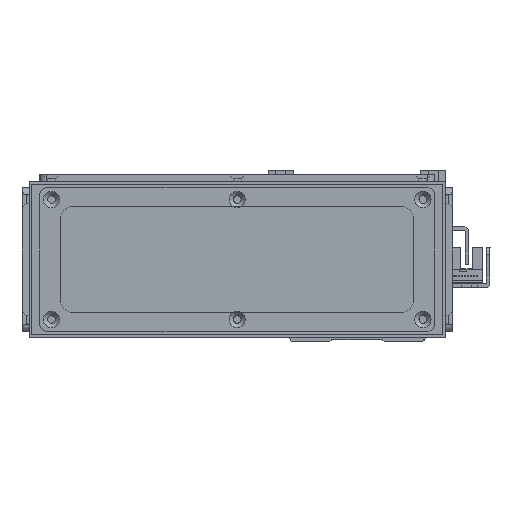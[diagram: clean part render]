
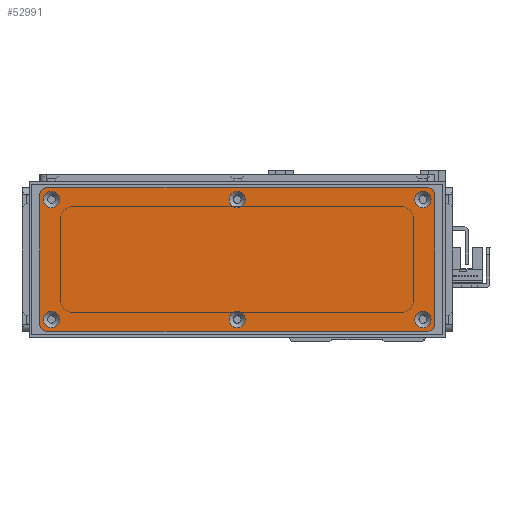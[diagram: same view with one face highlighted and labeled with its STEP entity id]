
A CAD part, left-side view. The second image highlights one B-rep face of the part: STEP entity #52991.
In plain terms, the highlighted planar face has unit normal (-1, 0, 0) as drawn and (0, 0, 1) by its records, which use the part's own axes.
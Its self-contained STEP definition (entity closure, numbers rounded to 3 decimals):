
#834=FACE_BOUND('',#8963,.T.);
#835=FACE_BOUND('',#8964,.T.);
#836=FACE_BOUND('',#8965,.T.);
#837=FACE_BOUND('',#8966,.T.);
#838=FACE_BOUND('',#8967,.T.);
#839=FACE_BOUND('',#8968,.T.);
#2790=PLANE('',#56981);
#5865=FACE_OUTER_BOUND('',#8962,.T.);
#8962=EDGE_LOOP('',(#48373,#48374,#48375,#48376,#48377,#48378,#48379,#48380));
#8963=EDGE_LOOP('',(#48381));
#8964=EDGE_LOOP('',(#48382));
#8965=EDGE_LOOP('',(#48383));
#8966=EDGE_LOOP('',(#48384));
#8967=EDGE_LOOP('',(#48385));
#8968=EDGE_LOOP('',(#48386));
#15043=LINE('',#85502,#21217);
#15046=LINE('',#85510,#21220);
#15049=LINE('',#85518,#21223);
#15052=LINE('',#85525,#21226);
#21217=VECTOR('',#69609,10.);
#21220=VECTOR('',#69618,10.);
#21223=VECTOR('',#69627,10.);
#21226=VECTOR('',#69636,10.);
#22709=CIRCLE('',#56935,3.45);
#22712=CIRCLE('',#56940,3.45);
#22715=CIRCLE('',#56945,3.45);
#22718=CIRCLE('',#56950,3.45);
#22721=CIRCLE('',#56955,3.45);
#22724=CIRCLE('',#56960,3.45);
#22731=CIRCLE('',#56970,3.);
#22732=CIRCLE('',#56973,3.);
#22733=CIRCLE('',#56976,3.);
#22734=CIRCLE('',#56979,3.);
#27370=VERTEX_POINT('',#85418);
#27373=VERTEX_POINT('',#85428);
#27376=VERTEX_POINT('',#85438);
#27379=VERTEX_POINT('',#85448);
#27382=VERTEX_POINT('',#85458);
#27385=VERTEX_POINT('',#85468);
#27396=VERTEX_POINT('',#85495);
#27397=VERTEX_POINT('',#85497);
#27398=VERTEX_POINT('',#85501);
#27399=VERTEX_POINT('',#85505);
#27400=VERTEX_POINT('',#85509);
#27401=VERTEX_POINT('',#85513);
#27402=VERTEX_POINT('',#85517);
#27403=VERTEX_POINT('',#85521);
#34462=EDGE_CURVE('',#27370,#27370,#22709,.T.);
#34467=EDGE_CURVE('',#27373,#27373,#22712,.T.);
#34472=EDGE_CURVE('',#27376,#27376,#22715,.T.);
#34477=EDGE_CURVE('',#27379,#27379,#22718,.T.);
#34482=EDGE_CURVE('',#27382,#27382,#22721,.T.);
#34487=EDGE_CURVE('',#27385,#27385,#22724,.T.);
#34501=EDGE_CURVE('',#27397,#27396,#22731,.T.);
#34503=EDGE_CURVE('',#27398,#27397,#15043,.T.);
#34505=EDGE_CURVE('',#27399,#27398,#22732,.T.);
#34507=EDGE_CURVE('',#27400,#27399,#15046,.T.);
#34509=EDGE_CURVE('',#27401,#27400,#22733,.T.);
#34511=EDGE_CURVE('',#27402,#27401,#15049,.T.);
#34513=EDGE_CURVE('',#27403,#27402,#22734,.T.);
#34515=EDGE_CURVE('',#27396,#27403,#15052,.T.);
#48373=ORIENTED_EDGE('',*,*,#34515,.T.);
#48374=ORIENTED_EDGE('',*,*,#34513,.T.);
#48375=ORIENTED_EDGE('',*,*,#34511,.T.);
#48376=ORIENTED_EDGE('',*,*,#34509,.T.);
#48377=ORIENTED_EDGE('',*,*,#34507,.T.);
#48378=ORIENTED_EDGE('',*,*,#34505,.T.);
#48379=ORIENTED_EDGE('',*,*,#34503,.T.);
#48380=ORIENTED_EDGE('',*,*,#34501,.T.);
#48381=ORIENTED_EDGE('',*,*,#34462,.T.);
#48382=ORIENTED_EDGE('',*,*,#34467,.T.);
#48383=ORIENTED_EDGE('',*,*,#34472,.T.);
#48384=ORIENTED_EDGE('',*,*,#34477,.T.);
#48385=ORIENTED_EDGE('',*,*,#34482,.T.);
#48386=ORIENTED_EDGE('',*,*,#34487,.T.);
#52991=ADVANCED_FACE('',(#5865,#834,#835,#836,#837,#838,#839),#2790,.T.);
#56935=AXIS2_PLACEMENT_3D('',#85419,#69517,#69518);
#56940=AXIS2_PLACEMENT_3D('',#85429,#69529,#69530);
#56945=AXIS2_PLACEMENT_3D('',#85439,#69541,#69542);
#56950=AXIS2_PLACEMENT_3D('',#85449,#69553,#69554);
#56955=AXIS2_PLACEMENT_3D('',#85459,#69565,#69566);
#56960=AXIS2_PLACEMENT_3D('',#85469,#69577,#69578);
#56970=AXIS2_PLACEMENT_3D('',#85498,#69604,#69605);
#56973=AXIS2_PLACEMENT_3D('',#85506,#69613,#69614);
#56976=AXIS2_PLACEMENT_3D('',#85514,#69622,#69623);
#56979=AXIS2_PLACEMENT_3D('',#85522,#69631,#69632);
#56981=AXIS2_PLACEMENT_3D('',#85526,#69637,#69638);
#69517=DIRECTION('center_axis',(0.,0.,-1.));
#69518=DIRECTION('ref_axis',(1.,0.,0.));
#69529=DIRECTION('center_axis',(0.,0.,-1.));
#69530=DIRECTION('ref_axis',(1.,0.,0.));
#69541=DIRECTION('center_axis',(0.,0.,-1.));
#69542=DIRECTION('ref_axis',(1.,0.,0.));
#69553=DIRECTION('center_axis',(0.,0.,-1.));
#69554=DIRECTION('ref_axis',(1.,0.,0.));
#69565=DIRECTION('center_axis',(0.,0.,-1.));
#69566=DIRECTION('ref_axis',(1.,0.,0.));
#69577=DIRECTION('center_axis',(0.,0.,-1.));
#69578=DIRECTION('ref_axis',(1.,0.,0.));
#69604=DIRECTION('center_axis',(0.,0.,1.));
#69605=DIRECTION('ref_axis',(-1.,0.,0.));
#69609=DIRECTION('',(0.,1.,0.));
#69613=DIRECTION('center_axis',(0.,0.,1.));
#69614=DIRECTION('ref_axis',(0.,1.,0.));
#69618=DIRECTION('',(1.,0.,0.));
#69622=DIRECTION('center_axis',(0.,0.,1.));
#69623=DIRECTION('ref_axis',(1.,0.,0.));
#69627=DIRECTION('',(0.,-1.,0.));
#69631=DIRECTION('center_axis',(0.,0.,1.));
#69632=DIRECTION('ref_axis',(0.,-1.,0.));
#69636=DIRECTION('',(-1.,0.,0.));
#69637=DIRECTION('center_axis',(0.,0.,1.));
#69638=DIRECTION('ref_axis',(1.,0.,0.));
#85418=CARTESIAN_POINT('',(-3.45,25.5,1.5));
#85419=CARTESIAN_POINT('Origin',(0.,25.5,1.5));
#85428=CARTESIAN_POINT('',(75.55,-25.5,1.5));
#85429=CARTESIAN_POINT('Origin',(79.,-25.5,1.5));
#85438=CARTESIAN_POINT('',(-82.45,25.5,1.5));
#85439=CARTESIAN_POINT('Origin',(-79.,25.5,1.5));
#85448=CARTESIAN_POINT('',(75.55,25.5,1.5));
#85449=CARTESIAN_POINT('Origin',(79.,25.5,1.5));
#85458=CARTESIAN_POINT('',(-82.45,-25.5,1.5));
#85459=CARTESIAN_POINT('Origin',(-79.,-25.5,1.5));
#85468=CARTESIAN_POINT('',(-3.45,-25.5,1.5));
#85469=CARTESIAN_POINT('Origin',(0.,-25.5,1.5));
#85495=CARTESIAN_POINT('',(81.,30.5,1.5));
#85497=CARTESIAN_POINT('',(84.,27.5,1.5));
#85498=CARTESIAN_POINT('Origin',(81.,27.5,1.5));
#85501=CARTESIAN_POINT('',(84.,-27.5,1.5));
#85502=CARTESIAN_POINT('',(84.,27.5,1.5));
#85505=CARTESIAN_POINT('',(81.,-30.5,1.5));
#85506=CARTESIAN_POINT('Origin',(81.,-27.5,1.5));
#85509=CARTESIAN_POINT('',(-81.,-30.5,1.5));
#85510=CARTESIAN_POINT('',(81.,-30.5,1.5));
#85513=CARTESIAN_POINT('',(-84.,-27.5,1.5));
#85514=CARTESIAN_POINT('Origin',(-81.,-27.5,1.5));
#85517=CARTESIAN_POINT('',(-84.,27.5,1.5));
#85518=CARTESIAN_POINT('',(-84.,-27.5,1.5));
#85521=CARTESIAN_POINT('',(-81.,30.5,1.5));
#85522=CARTESIAN_POINT('Origin',(-81.,27.5,1.5));
#85525=CARTESIAN_POINT('',(-81.,30.5,1.5));
#85526=CARTESIAN_POINT('Origin',(0.,0.,
1.5));
